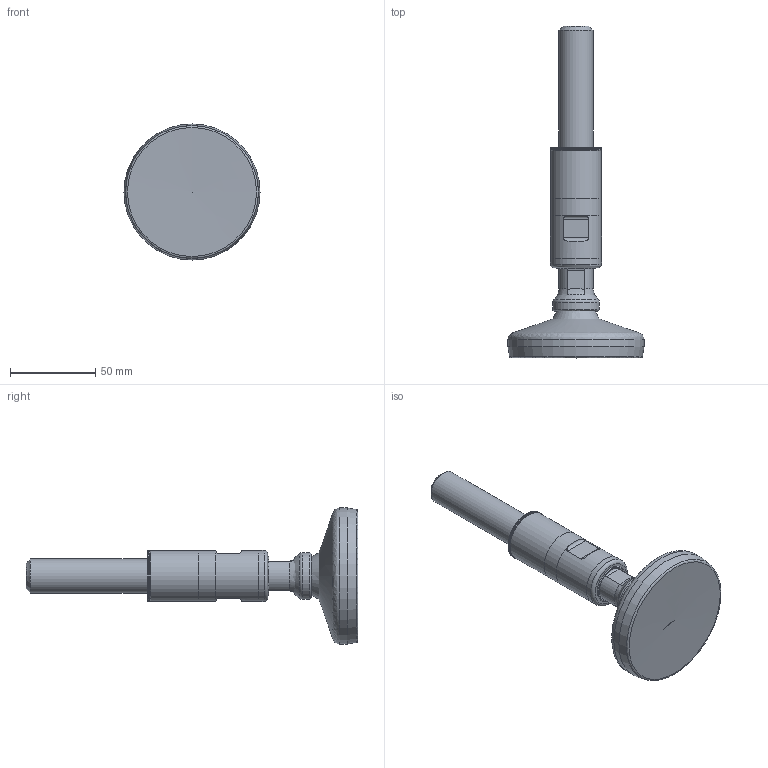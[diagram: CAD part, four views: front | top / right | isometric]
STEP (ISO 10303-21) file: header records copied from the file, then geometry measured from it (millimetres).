
FILE_DESCRIPTION(('STEP AP203'),'2;1');
FILE_NAME('27146-3A.stp','2017-07-14T11:45:35',(''),(''),'2014.1.117','THINKDESIGN','');
FILE_SCHEMA(('CONFIG_CONTROL_DESIGN'));
Length unit declared in the file: millimetre
Bounding box: 80 x 195 x 80 mm (x, y, z)
Volume: 172402.1 mm3; surface area: 51956.4 mm2
Topology: 7 solids, 7 shells, 98 faces, 270 edges, 196 vertices
Faces by surface type: bspline 36, cylinder 33, plane 29
Full cylindrical faces by diameter (mm): 10.3 x1, 16 x2, 17.5 x1, 19.8 x1, 20 x2, 20.2 x3, 22.4 x2, 22.8 x2, 23 x2, 26 x2, 27 x2, 27.5 x1, 30 x4, 30.4 x1, 80 x1
Entity records: 4663 total; most frequent: CARTESIAN_POINT 2086, DIRECTION 530, ORIENTED_EDGE 470, AXIS2_PLACEMENT_3D 237, EDGE_CURVE 235, CIRCLE 175, VERTEX_POINT 168, EDGE_LOOP 103
